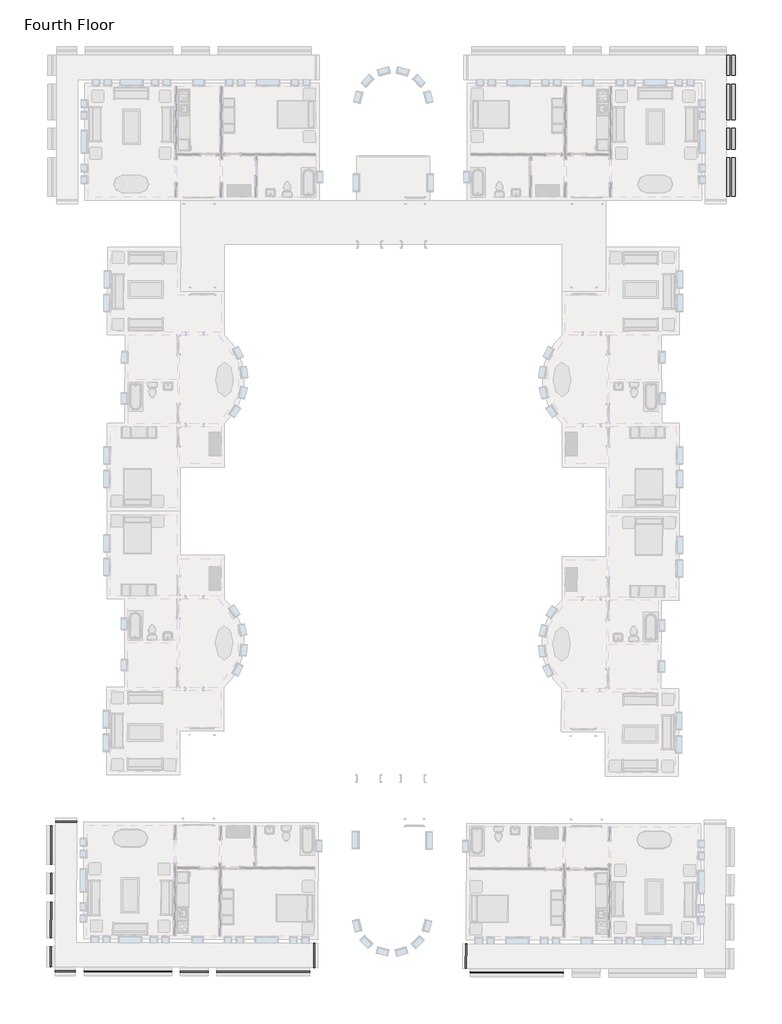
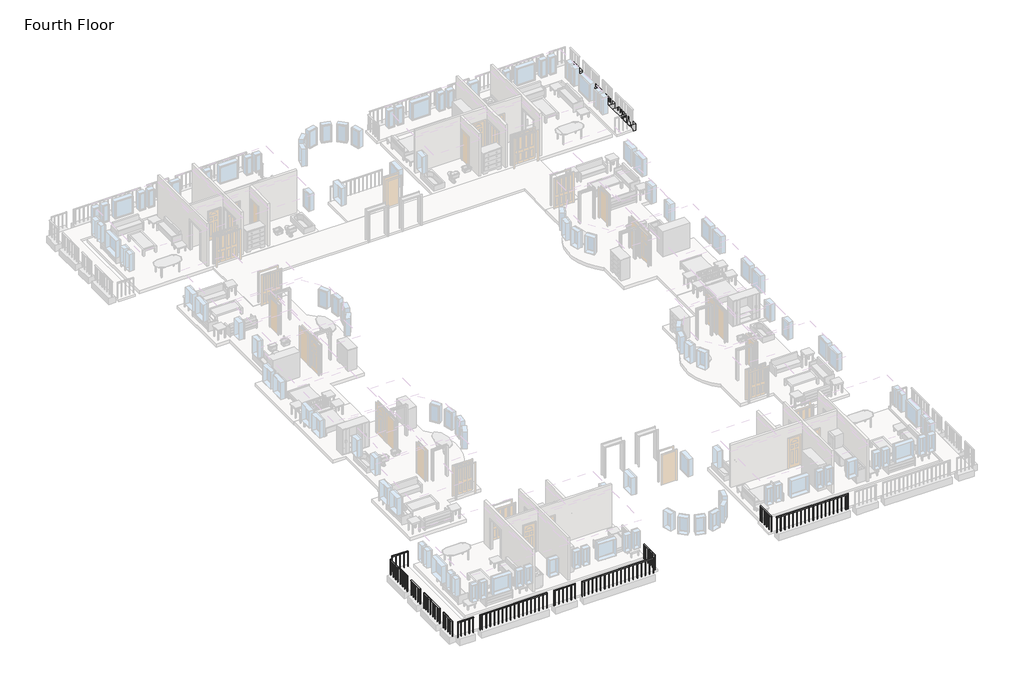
# One storey, part 4 of 8: 12 railings, 1 beam.
"""IFC4 building model written with IfcOpenShell, lengths in millimetres."""

from ifc_helpers import new_model, si_unit, frame, origin, place, context, project, spatial, polyline, outline, extrude, element, save

model = new_model("IFC4")

# Units and contexts
model_context = context("Model", 3, world=origin())
ifc_project = project(units=[si_unit("LENGTHUNIT", "METRE", prefix="MILLI")], contexts=[model_context])

# Site, building, storey
site = spatial("IfcSite", under=ifc_project)
building = spatial("IfcBuilding", under=site)
storey = spatial("IfcBuildingStorey", under=building, Name="Fourth Floor", Elevation=9144.0)

# Beam
placement = place(None, origin())
element("IfcBeam", 1, ObjectType="M_Concrete-Rectangular Beam : 450 x 450", at=placement, inside=storey, context=model_context, shape_type="SweptSolid", body=[
    extrude(outline(polyline([(-1643.3416203, 4031.1188386), (-1193.3416203, 4031.1188386), (-1193.3416203, 2981.1188386), (-1643.3416203, 2981.1188386), (-1643.3416203, 4031.1188386)])), frame((0.0, 0.0, 8694.0), z_axis=(0.0, 0.0, 1.0), x_axis=(1.0, 0.0, 0.0)), (0.0, 0.0, 1.0), 450.0),
    extrude(outline(polyline([(-1193.3416203, -3289.8811614), (-1643.3416203, -3289.8811614), (-1643.3416203, -1295.3811614), (-1193.3416203, -1295.3811614), (-1193.3416203, -3289.8811614)])), frame((0.0, 0.0, 8694.0), z_axis=(0.0, 0.0, 1.0), x_axis=(1.0, 0.0, 0.0)), (0.0, 0.0, 1.0), 450.0),
    extrude(outline(polyline([(-1643.3416203, 2531.1188386), (-1193.3416203, 2531.1188386), (-1193.3416203, 681.1188386), (-1643.3416203, 681.1188386), (-1643.3416203, 2531.1188386)])), frame((0.0, 0.0, 8694.0), z_axis=(0.0, 0.0, 1.0), x_axis=(1.0, 0.0, 0.0)), (0.0, 0.0, 1.0), 450.0),
    extrude(outline(polyline([(-1643.3416203, 231.1188386), (-1193.3416203, 231.1188386), (-1193.3416203, -845.3811614), (-1643.3416203, -845.3811614), (-1643.3416203, 231.1188386)])), frame((0.0, 0.0, 8694.0), z_axis=(0.0, 0.0, 1.0), x_axis=(1.0, 0.0, 0.0)), (0.0, 0.0, 1.0), 450.0),
])

# Railings
element("IfcRailing", 2, ObjectType="1100mm", at=placement, inside=storey, context=model_context, shape_type="SweptSolid", body=[
    extrude(outline(polyline([(-14954.7371889, -43662.8708828), (-14954.5924462, -43612.8710923), (-10112.6127346, -43626.8879749), (-10112.7574773, -43676.8877654), (-14954.7371889, -43662.8708828)])), frame((0.0, 0.0, 10194.0), z_axis=(0.0, 0.0, 1.0), x_axis=(1.0, 0.0, 0.0)), (0.0, 0.0, 1.0), 50.0),
    extrude(outline(polyline([(-10292.1481682, -43638.8682963), (-10267.1482729, -43638.9406676), (-10267.2206443, -43663.9405629), (-10292.2205395, -43663.8681915), (-10292.1481682, -43638.8682963)])), frame((0.0, 0.0, 9144.0), z_axis=(0.0, 0.0, 1.0), x_axis=(1.0, 0.0, 0.0)), (0.0, 0.0, 1.0), 1050.0),
    extrude(outline(polyline([(-10567.1470159, -43638.0722115), (-10542.1471207, -43638.1445828), (-10542.219492, -43663.144478), (-10567.2193872, -43663.0721067), (-10567.1470159, -43638.0722115)])), frame((0.0, 0.0, 9144.0), z_axis=(0.0, 0.0, 1.0), x_axis=(1.0, 0.0, 0.0)), (0.0, 0.0, 1.0), 1050.0),
    extrude(outline(polyline([(-10842.1458636, -43637.2761266), (-10817.1459684, -43637.348498), (-10817.2183397, -43662.3483932), (-10842.218235, -43662.2760219), (-10842.1458636, -43637.2761266)])), frame((0.0, 0.0, 9144.0), z_axis=(0.0, 0.0, 1.0), x_axis=(1.0, 0.0, 0.0)), (0.0, 0.0, 1.0), 1050.0),
    extrude(outline(polyline([(-11117.1447113, -43636.4800418), (-11092.1448161, -43636.5524131), (-11092.2171874, -43661.5523084), (-11117.2170827, -43661.479937), (-11117.1447113, -43636.4800418)])), frame((0.0, 0.0, 9144.0), z_axis=(0.0, 0.0, 1.0), x_axis=(1.0, 0.0, 0.0)), (0.0, 0.0, 1.0), 1050.0),
    extrude(outline(polyline([(-11392.1435591, -43635.683957), (-11367.1436638, -43635.7563283), (-11367.2160352, -43660.7562236), (-11392.2159304, -43660.6838522), (-11392.1435591, -43635.683957)])), frame((0.0, 0.0, 9144.0), z_axis=(0.0, 0.0, 1.0), x_axis=(1.0, 0.0, 0.0)), (0.0, 0.0, 1.0), 1050.0),
    extrude(outline(polyline([(-11667.1424068, -43634.8878721), (-11642.1425115, -43634.9602435), (-11642.2148829, -43659.9601387), (-11667.2147781, -43659.8877674), (-11667.1424068, -43634.8878721)])), frame((0.0, 0.0, 9144.0), z_axis=(0.0, 0.0, 1.0), x_axis=(1.0, 0.0, 0.0)), (0.0, 0.0, 1.0), 1050.0),
    extrude(outline(polyline([(-11942.1412545, -43634.0917873), (-11917.1413593, -43634.1641587), (-11917.2137306, -43659.1640539), (-11942.2136259, -43659.0916826), (-11942.1412545, -43634.0917873)])), frame((0.0, 0.0, 9144.0), z_axis=(0.0, 0.0, 1.0), x_axis=(1.0, 0.0, 0.0)), (0.0, 0.0, 1.0), 1050.0),
    extrude(outline(polyline([(-12217.1401022, -43633.2957025), (-12192.140207, -43633.3680738), (-12192.2125783, -43658.3679691), (-12217.2124736, -43658.2955977), (-12217.1401022, -43633.2957025)])), frame((0.0, 0.0, 9144.0), z_axis=(0.0, 0.0, 1.0), x_axis=(1.0, 0.0, 0.0)), (0.0, 0.0, 1.0), 1050.0),
    extrude(outline(polyline([(-12492.13895, -43632.4996177), (-12467.1390547, -43632.571989), (-12467.2114261, -43657.5718843), (-12492.2113213, -43657.4995129), (-12492.13895, -43632.4996177)])), frame((0.0, 0.0, 9144.0), z_axis=(0.0, 0.0, 1.0), x_axis=(1.0, 0.0, 0.0)), (0.0, 0.0, 1.0), 1050.0),
    extrude(outline(polyline([(-12767.1377977, -43631.7035328), (-12742.1379024, -43631.7759042), (-12742.2102738, -43656.7757994), (-12767.210169, -43656.7034281), (-12767.1377977, -43631.7035328)])), frame((0.0, 0.0, 9144.0), z_axis=(0.0, 0.0, 1.0), x_axis=(1.0, 0.0, 0.0)), (0.0, 0.0, 1.0), 1050.0),
    extrude(outline(polyline([(-13042.1366454, -43630.907448), (-13017.1367502, -43630.9798194), (-13017.2091215, -43655.9797146), (-13042.2090168, -43655.9073433), (-13042.1366454, -43630.907448)])), frame((0.0, 0.0, 9144.0), z_axis=(0.0, 0.0, 1.0), x_axis=(1.0, 0.0, 0.0)), (0.0, 0.0, 1.0), 1050.0),
    extrude(outline(polyline([(-13317.1354931, -43630.1113632), (-13292.1355979, -43630.1837345), (-13292.2079692, -43655.1836298), (-13317.2078645, -43655.1112584), (-13317.1354931, -43630.1113632)])), frame((0.0, 0.0, 9144.0), z_axis=(0.0, 0.0, 1.0), x_axis=(1.0, 0.0, 0.0)), (0.0, 0.0, 1.0), 1050.0),
    extrude(outline(polyline([(-13592.1343409, -43629.3152784), (-13567.1344456, -43629.3876497), (-13567.206817, -43654.387545), (-13592.2067122, -43654.3151736), (-13592.1343409, -43629.3152784)])), frame((0.0, 0.0, 9144.0), z_axis=(0.0, 0.0, 1.0), x_axis=(1.0, 0.0, 0.0)), (0.0, 0.0, 1.0), 1050.0),
    extrude(outline(polyline([(-13867.1331886, -43628.5191935), (-13842.1332933, -43628.5915649), (-13842.2056647, -43653.5914601), (-13867.2055599, -43653.5190888), (-13867.1331886, -43628.5191935)])), frame((0.0, 0.0, 9144.0), z_axis=(0.0, 0.0, 1.0), x_axis=(1.0, 0.0, 0.0)), (0.0, 0.0, 1.0), 1050.0),
    extrude(outline(polyline([(-14142.1320363, -43627.7231087), (-14117.1321411, -43627.7954801), (-14117.2045124, -43652.7953753), (-14142.2044076, -43652.723004), (-14142.1320363, -43627.7231087)])), frame((0.0, 0.0, 9144.0), z_axis=(0.0, 0.0, 1.0), x_axis=(1.0, 0.0, 0.0)), (0.0, 0.0, 1.0), 1050.0),
    extrude(outline(polyline([(-14417.130884, -43626.9270239), (-14392.1309888, -43626.9993952), (-14392.2033601, -43651.9992905), (-14417.2032554, -43651.9269191), (-14417.130884, -43626.9270239)])), frame((0.0, 0.0, 9144.0), z_axis=(0.0, 0.0, 1.0), x_axis=(1.0, 0.0, 0.0)), (0.0, 0.0, 1.0), 1050.0),
    extrude(outline(polyline([(-14692.1297317, -43626.1309391), (-14667.1298365, -43626.2033104), (-14667.2022078, -43651.2032057), (-14692.2021031, -43651.1308343), (-14692.1297317, -43626.1309391)])), frame((0.0, 0.0, 9144.0), z_axis=(0.0, 0.0, 1.0), x_axis=(1.0, 0.0, 0.0)), (0.0, 0.0, 1.0), 1050.0),
    extrude(outline(polyline([(-10137.6488155, -43639.3155512), (-10112.6489203, -43639.3879226), (-10112.7212916, -43664.3878178), (-10137.7211869, -43664.3154465), (-10137.6488155, -43639.3155512)])), frame((0.0, 0.0, 9144.0), z_axis=(0.0, 0.0, 1.0), x_axis=(1.0, 0.0, 0.0)), (0.0, 0.0, 1.0), 1050.0),
    extrude(outline(polyline([(-14954.6286318, -43625.3710399), (-14929.6287366, -43625.4434113), (-14929.7011079, -43650.4433065), (-14954.7010032, -43650.3709351), (-14954.6286318, -43625.3710399)])), frame((0.0, 0.0, 9144.0), z_axis=(0.0, 0.0, 1.0), x_axis=(1.0, 0.0, 0.0)), (0.0, 0.0, 1.0), 1050.0),
])
element("IfcRailing", 3, ObjectType="1100mm", at=placement, inside=storey, context=model_context, shape_type="SweptSolid", body=[
    extrude(outline(polyline([(-15154.0126374, -43412.2929595), (-15204.0124279, -43412.1482168), (-15200.3214891, -42137.1535592), (-15150.3216986, -42137.2983019), (-15154.0126374, -43412.2929595)])), frame((0.0, 0.0, 10194.0), z_axis=(0.0, 0.0, 1.0), x_axis=(1.0, 0.0, 0.0)), (0.0, 0.0, 1.0), 50.0),
    extrude(outline(polyline([(-15188.3643266, -42324.6889592), (-15188.2919553, -42299.689064), (-15163.29206, -42299.7614353), (-15163.3644314, -42324.7613306), (-15188.3643266, -42324.6889592)])), frame((0.0, 0.0, 9144.0), z_axis=(0.0, 0.0, 1.0), x_axis=(1.0, 0.0, 0.0)), (0.0, 0.0, 1.0), 1050.0),
    extrude(outline(polyline([(-15189.1604114, -42599.6878069), (-15189.0880401, -42574.6879117), (-15164.0881448, -42574.760283), (-15164.1605162, -42599.7601783), (-15189.1604114, -42599.6878069)])), frame((0.0, 0.0, 9144.0), z_axis=(0.0, 0.0, 1.0), x_axis=(1.0, 0.0, 0.0)), (0.0, 0.0, 1.0), 1050.0),
    extrude(outline(polyline([(-15189.9564963, -42874.6866547), (-15189.8841249, -42849.6867594), (-15164.8842297, -42849.7591308), (-15164.956601, -42874.759026), (-15189.9564963, -42874.6866547)])), frame((0.0, 0.0, 9144.0), z_axis=(0.0, 0.0, 1.0), x_axis=(1.0, 0.0, 0.0)), (0.0, 0.0, 1.0), 1050.0),
    extrude(outline(polyline([(-15190.7525811, -43149.6855024), (-15190.6802097, -43124.6856071), (-15165.6803145, -43124.7579785), (-15165.7526858, -43149.7578737), (-15190.7525811, -43149.6855024)])), frame((0.0, 0.0, 9144.0), z_axis=(0.0, 0.0, 1.0), x_axis=(1.0, 0.0, 0.0)), (0.0, 0.0, 1.0), 1050.0),
    extrude(outline(polyline([(-15187.8939128, -42162.1896401), (-15187.8215415, -42137.1897449), (-15162.8216462, -42137.2621162), (-15162.8940176, -42162.2620115), (-15187.8939128, -42162.1896401)])), frame((0.0, 0.0, 9144.0), z_axis=(0.0, 0.0, 1.0), x_axis=(1.0, 0.0, 0.0)), (0.0, 0.0, 1.0), 1050.0),
    extrude(outline(polyline([(-15191.5124802, -43412.1844025), (-15191.4401089, -43387.1845072), (-15166.4402136, -43387.2568786), (-15166.512585, -43412.2567738), (-15191.5124802, -43412.1844025)])), frame((0.0, 0.0, 9144.0), z_axis=(0.0, 0.0, 1.0), x_axis=(1.0, 0.0, 0.0)), (0.0, 0.0, 1.0), 1050.0),
])
element("IfcRailing", 4, ObjectType="1100mm", at=placement, inside=storey, context=model_context, shape_type="SweptSolid", body=[
    extrude(outline(polyline([(-23286.0575364, -43588.7526169), (-23286.2022791, -43638.7524074), (-28128.1819906, -43624.7355247), (-28128.0372479, -43574.7357342), (-23286.0575364, -43588.7526169)])), frame((0.0, 0.0, 10194.0), z_axis=(0.0, 0.0, 1.0), x_axis=(1.0, 0.0, 0.0)), (0.0, 0.0, 1.0), 50.0),
    extrude(outline(polyline([(-27948.5741857, -43587.7553081), (-27948.6465571, -43612.7552034), (-27973.6464523, -43612.682832), (-27973.574081, -43587.6829368), (-27948.5741857, -43587.7553081)])), frame((0.0, 0.0, 9144.0), z_axis=(0.0, 0.0, 1.0), x_axis=(1.0, 0.0, 0.0)), (0.0, 0.0, 1.0), 1050.0),
    extrude(outline(polyline([(-27673.575338, -43588.551393), (-27673.6477093, -43613.5512882), (-27698.6476046, -43613.4789169), (-27698.5752332, -43588.4790216), (-27673.575338, -43588.551393)])), frame((0.0, 0.0, 9144.0), z_axis=(0.0, 0.0, 1.0), x_axis=(1.0, 0.0, 0.0)), (0.0, 0.0, 1.0), 1050.0),
    extrude(outline(polyline([(-27398.5764903, -43589.3474778), (-27398.6488616, -43614.347373), (-27423.6487569, -43614.2750017), (-27423.5763855, -43589.2751064), (-27398.5764903, -43589.3474778)])), frame((0.0, 0.0, 9144.0), z_axis=(0.0, 0.0, 1.0), x_axis=(1.0, 0.0, 0.0)), (0.0, 0.0, 1.0), 1050.0),
    extrude(outline(polyline([(-27123.5776425, -43590.1435626), (-27123.6500139, -43615.1434579), (-27148.6499091, -43615.0710865), (-27148.5775378, -43590.0711913), (-27123.5776425, -43590.1435626)])), frame((0.0, 0.0, 9144.0), z_axis=(0.0, 0.0, 1.0), x_axis=(1.0, 0.0, 0.0)), (0.0, 0.0, 1.0), 1050.0),
    extrude(outline(polyline([(-26848.5787948, -43590.9396474), (-26848.6511662, -43615.9395427), (-26873.6510614, -43615.8671713), (-26873.5786901, -43590.8672761), (-26848.5787948, -43590.9396474)])), frame((0.0, 0.0, 9144.0), z_axis=(0.0, 0.0, 1.0), x_axis=(1.0, 0.0, 0.0)), (0.0, 0.0, 1.0), 1050.0),
    extrude(outline(polyline([(-26573.5799471, -43591.7357323), (-26573.6523184, -43616.7356275), (-26598.6522137, -43616.6632562), (-26598.5798423, -43591.6633609), (-26573.5799471, -43591.7357323)])), frame((0.0, 0.0, 9144.0), z_axis=(0.0, 0.0, 1.0), x_axis=(1.0, 0.0, 0.0)), (0.0, 0.0, 1.0), 1050.0),
    extrude(outline(polyline([(-26298.5810994, -43592.5318171), (-26298.6534707, -43617.5317123), (-26323.653366, -43617.459341), (-26323.5809946, -43592.4594458), (-26298.5810994, -43592.5318171)])), frame((0.0, 0.0, 9144.0), z_axis=(0.0, 0.0, 1.0), x_axis=(1.0, 0.0, 0.0)), (0.0, 0.0, 1.0), 1050.0),
    extrude(outline(polyline([(-26023.5822516, -43593.3279019), (-26023.654623, -43618.3277972), (-26048.6545182, -43618.2554258), (-26048.5821469, -43593.2555306), (-26023.5822516, -43593.3279019)])), frame((0.0, 0.0, 9144.0), z_axis=(0.0, 0.0, 1.0), x_axis=(1.0, 0.0, 0.0)), (0.0, 0.0, 1.0), 1050.0),
    extrude(outline(polyline([(-25748.5834039, -43594.1239868), (-25748.6557753, -43619.123882), (-25773.6556705, -43619.0515107), (-25773.5832992, -43594.0516154), (-25748.5834039, -43594.1239868)])), frame((0.0, 0.0, 9144.0), z_axis=(0.0, 0.0, 1.0), x_axis=(1.0, 0.0, 0.0)), (0.0, 0.0, 1.0), 1050.0),
    extrude(outline(polyline([(-25473.5845562, -43594.9200716), (-25473.6569275, -43619.9199668), (-25498.6568228, -43619.8475955), (-25498.5844514, -43594.8477002), (-25473.5845562, -43594.9200716)])), frame((0.0, 0.0, 9144.0), z_axis=(0.0, 0.0, 1.0), x_axis=(1.0, 0.0, 0.0)), (0.0, 0.0, 1.0), 1050.0),
    extrude(outline(polyline([(-25198.5857085, -43595.7161564), (-25198.6580798, -43620.7160517), (-25223.6579751, -43620.6436803), (-25223.5856037, -43595.6437851), (-25198.5857085, -43595.7161564)])), frame((0.0, 0.0, 9144.0), z_axis=(0.0, 0.0, 1.0), x_axis=(1.0, 0.0, 0.0)), (0.0, 0.0, 1.0), 1050.0),
    extrude(outline(polyline([(-24923.5868608, -43596.5122412), (-24923.6592321, -43621.5121365), (-24948.6591273, -43621.4397651), (-24948.586756, -43596.4398699), (-24923.5868608, -43596.5122412)])), frame((0.0, 0.0, 9144.0), z_axis=(0.0, 0.0, 1.0), x_axis=(1.0, 0.0, 0.0)), (0.0, 0.0, 1.0), 1050.0),
    extrude(outline(polyline([(-24648.588013, -43597.3083261), (-24648.6603844, -43622.3082213), (-24673.6602796, -43622.23585), (-24673.5879083, -43597.2359547), (-24648.588013, -43597.3083261)])), frame((0.0, 0.0, 9144.0), z_axis=(0.0, 0.0, 1.0), x_axis=(1.0, 0.0, 0.0)), (0.0, 0.0, 1.0), 1050.0),
    extrude(outline(polyline([(-24373.5891653, -43598.1044109), (-24373.6615367, -43623.1043061), (-24398.6614319, -43623.0319348), (-24398.5890606, -43598.0320395), (-24373.5891653, -43598.1044109)])), frame((0.0, 0.0, 9144.0), z_axis=(0.0, 0.0, 1.0), x_axis=(1.0, 0.0, 0.0)), (0.0, 0.0, 1.0), 1050.0),
    extrude(outline(polyline([(-24098.5903176, -43598.9004957), (-24098.6626889, -43623.900391), (-24123.6625842, -43623.8280196), (-24123.5902128, -43598.8281244), (-24098.5903176, -43598.9004957)])), frame((0.0, 0.0, 9144.0), z_axis=(0.0, 0.0, 1.0), x_axis=(1.0, 0.0, 0.0)), (0.0, 0.0, 1.0), 1050.0),
    extrude(outline(polyline([(-23823.5914699, -43599.6965805), (-23823.6638412, -43624.6964758), (-23848.6637365, -43624.6241044), (-23848.5913651, -43599.6242092), (-23823.5914699, -43599.6965805)])), frame((0.0, 0.0, 9144.0), z_axis=(0.0, 0.0, 1.0), x_axis=(1.0, 0.0, 0.0)), (0.0, 0.0, 1.0), 1050.0),
    extrude(outline(polyline([(-23548.5926221, -43600.4926654), (-23548.6649935, -43625.4925606), (-23573.6648887, -43625.4201893), (-23573.5925174, -43600.420294), (-23548.5926221, -43600.4926654)])), frame((0.0, 0.0, 9144.0), z_axis=(0.0, 0.0, 1.0), x_axis=(1.0, 0.0, 0.0)), (0.0, 0.0, 1.0), 1050.0),
    extrude(outline(polyline([(-28103.0735383, -43587.3080532), (-28103.1459097, -43612.3079485), (-28128.1458049, -43612.2355771), (-28128.0734336, -43587.2356819), (-28103.0735383, -43587.3080532)])), frame((0.0, 0.0, 9144.0), z_axis=(0.0, 0.0, 1.0), x_axis=(1.0, 0.0, 0.0)), (0.0, 0.0, 1.0), 1050.0),
    extrude(outline(polyline([(-23286.093722, -43601.2525645), (-23286.1660934, -43626.2524598), (-23311.1659886, -43626.1800884), (-23311.0936173, -43601.1801932), (-23286.093722, -43601.2525645)])), frame((0.0, 0.0, 9144.0), z_axis=(0.0, 0.0, 1.0), x_axis=(1.0, 0.0, 0.0)), (0.0, 0.0, 1.0), 1050.0),
])
element("IfcRailing", 5, ObjectType="1100mm", at=placement, inside=storey, context=model_context, shape_type="SweptSolid", body=[
    extrude(outline(polyline([(-28578.0353624, -43573.43305), (-28578.1801051, -43623.4328405), (-30028.1740294, -43619.2353023), (-30028.0292867, -43569.2355118), (-28578.0353624, -43573.43305)])), frame((0.0, 0.0, 10194.0), z_axis=(0.0, 0.0, 1.0), x_axis=(1.0, 0.0, 0.0)), (0.0, 0.0, 1.0), 50.0),
    extrude(outline(polyline([(-29940.565839, -43581.9887591), (-29940.6382104, -43606.9886544), (-29965.6381056, -43606.916283), (-29965.5657343, -43581.9163878), (-29940.565839, -43581.9887591)])), frame((0.0, 0.0, 9144.0), z_axis=(0.0, 0.0, 1.0), x_axis=(1.0, 0.0, 0.0)), (0.0, 0.0, 1.0), 1050.0),
    extrude(outline(polyline([(-29665.5669913, -43582.784844), (-29665.6393627, -43607.7847392), (-29690.6392579, -43607.7123679), (-29690.5668866, -43582.7124726), (-29665.5669913, -43582.784844)])), frame((0.0, 0.0, 9144.0), z_axis=(0.0, 0.0, 1.0), x_axis=(1.0, 0.0, 0.0)), (0.0, 0.0, 1.0), 1050.0),
    extrude(outline(polyline([(-29390.5681436, -43583.5809288), (-29390.6405149, -43608.580824), (-29415.6404102, -43608.5084527), (-29415.5680388, -43583.5085574), (-29390.5681436, -43583.5809288)])), frame((0.0, 0.0, 9144.0), z_axis=(0.0, 0.0, 1.0), x_axis=(1.0, 0.0, 0.0)), (0.0, 0.0, 1.0), 1050.0),
    extrude(outline(polyline([(-29115.5692959, -43584.3770136), (-29115.6416672, -43609.3769089), (-29140.6415625, -43609.3045375), (-29140.5691911, -43584.3046423), (-29115.5692959, -43584.3770136)])), frame((0.0, 0.0, 9144.0), z_axis=(0.0, 0.0, 1.0), x_axis=(1.0, 0.0, 0.0)), (0.0, 0.0, 1.0), 1050.0),
    extrude(outline(polyline([(-28840.5704481, -43585.1730985), (-28840.6428195, -43610.1729937), (-28865.6427147, -43610.1006223), (-28865.5703434, -43585.1007271), (-28840.5704481, -43585.1730985)])), frame((0.0, 0.0, 9144.0), z_axis=(0.0, 0.0, 1.0), x_axis=(1.0, 0.0, 0.0)), (0.0, 0.0, 1.0), 1050.0),
    extrude(outline(polyline([(-30003.0655771, -43581.8078308), (-30003.1379485, -43606.807726), (-30028.1378437, -43606.7353547), (-30028.0654724, -43581.7354594), (-30003.0655771, -43581.8078308)])), frame((0.0, 0.0, 9144.0), z_axis=(0.0, 0.0, 1.0), x_axis=(1.0, 0.0, 0.0)), (0.0, 0.0, 1.0), 1050.0),
    extrude(outline(polyline([(-28578.071548, -43585.9329976), (-28578.1439194, -43610.9328929), (-28603.1438146, -43610.8605215), (-28603.0714433, -43585.8606263), (-28578.071548, -43585.9329976)])), frame((0.0, 0.0, 9144.0), z_axis=(0.0, 0.0, 1.0), x_axis=(1.0, 0.0, 0.0)), (0.0, 0.0, 1.0), 1050.0),
])
element("IfcRailing", 6, ObjectType="1100mm", at=placement, inside=storey, context=model_context, shape_type="SweptSolid", body=[
    extrude(outline(polyline([(-30478.0274012, -43567.9328275), (-30478.1721439, -43617.932618), (-35028.1530789, -43604.7610327), (-35028.0083362, -43554.7612422), (-30478.0274012, -43567.9328275)])), frame((0.0, 0.0, 10194.0), z_axis=(0.0, 0.0, 1.0), x_axis=(1.0, 0.0, 0.0)), (0.0, 0.0, 1.0), 50.0),
    extrude(outline(polyline([(-34865.5452028, -43567.7316036), (-34865.6175741, -43592.7314989), (-34890.6174694, -43592.6591275), (-34890.545098, -43567.6592323), (-34865.5452028, -43567.7316036)])), frame((0.0, 0.0, 9144.0), z_axis=(0.0, 0.0, 1.0), x_axis=(1.0, 0.0, 0.0)), (0.0, 0.0, 1.0), 1050.0),
    extrude(outline(polyline([(-34590.5463551, -43568.5276884), (-34590.6187264, -43593.5275837), (-34615.6186217, -43593.4552123), (-34615.5462503, -43568.4553171), (-34590.5463551, -43568.5276884)])), frame((0.0, 0.0, 9144.0), z_axis=(0.0, 0.0, 1.0), x_axis=(1.0, 0.0, 0.0)), (0.0, 0.0, 1.0), 1050.0),
    extrude(outline(polyline([(-34315.5475073, -43569.3237733), (-34315.6198787, -43594.3236685), (-34340.6197739, -43594.2512972), (-34340.5474026, -43569.2514019), (-34315.5475073, -43569.3237733)])), frame((0.0, 0.0, 9144.0), z_axis=(0.0, 0.0, 1.0), x_axis=(1.0, 0.0, 0.0)), (0.0, 0.0, 1.0), 1050.0),
    extrude(outline(polyline([(-34040.5486596, -43570.1198581), (-34040.621031, -43595.1197533), (-34065.6209262, -43595.047382), (-34065.5485549, -43570.0474867), (-34040.5486596, -43570.1198581)])), frame((0.0, 0.0, 9144.0), z_axis=(0.0, 0.0, 1.0), x_axis=(1.0, 0.0, 0.0)), (0.0, 0.0, 1.0), 1050.0),
    extrude(outline(polyline([(-33765.5498119, -43570.9159429), (-33765.6221833, -43595.9158382), (-33790.6220785, -43595.8434668), (-33790.5497072, -43570.8435716), (-33765.5498119, -43570.9159429)])), frame((0.0, 0.0, 9144.0), z_axis=(0.0, 0.0, 1.0), x_axis=(1.0, 0.0, 0.0)), (0.0, 0.0, 1.0), 1050.0),
    extrude(outline(polyline([(-33490.5509642, -43571.7120277), (-33490.6233355, -43596.711923), (-33515.6232308, -43596.6395516), (-33515.5508594, -43571.6396564), (-33490.5509642, -43571.7120277)])), frame((0.0, 0.0, 9144.0), z_axis=(0.0, 0.0, 1.0), x_axis=(1.0, 0.0, 0.0)), (0.0, 0.0, 1.0), 1050.0),
    extrude(outline(polyline([(-33215.5521165, -43572.5081126), (-33215.6244878, -43597.5080078), (-33240.6243831, -43597.4356365), (-33240.5520117, -43572.4357412), (-33215.5521165, -43572.5081126)])), frame((0.0, 0.0, 9144.0), z_axis=(0.0, 0.0, 1.0), x_axis=(1.0, 0.0, 0.0)), (0.0, 0.0, 1.0), 1050.0),
    extrude(outline(polyline([(-32940.5532687, -43573.3041974), (-32940.6256401, -43598.3040926), (-32965.6255353, -43598.2317213), (-32965.553164, -43573.2318261), (-32940.5532687, -43573.3041974)])), frame((0.0, 0.0, 9144.0), z_axis=(0.0, 0.0, 1.0), x_axis=(1.0, 0.0, 0.0)), (0.0, 0.0, 1.0), 1050.0),
    extrude(outline(polyline([(-32665.554421, -43574.1002822), (-32665.6267924, -43599.1001775), (-32690.6266876, -43599.0278061), (-32690.5543163, -43574.0279109), (-32665.554421, -43574.1002822)])), frame((0.0, 0.0, 9144.0), z_axis=(0.0, 0.0, 1.0), x_axis=(1.0, 0.0, 0.0)), (0.0, 0.0, 1.0), 1050.0),
    extrude(outline(polyline([(-32390.5555733, -43574.8963671), (-32390.6279446, -43599.8962623), (-32415.6278399, -43599.823891), (-32415.5554685, -43574.8239957), (-32390.5555733, -43574.8963671)])), frame((0.0, 0.0, 9144.0), z_axis=(0.0, 0.0, 1.0), x_axis=(1.0, 0.0, 0.0)), (0.0, 0.0, 1.0), 1050.0),
    extrude(outline(polyline([(-32115.5567256, -43575.6924519), (-32115.6290969, -43600.6923471), (-32140.6289922, -43600.6199758), (-32140.5566208, -43575.6200805), (-32115.5567256, -43575.6924519)])), frame((0.0, 0.0, 9144.0), z_axis=(0.0, 0.0, 1.0), x_axis=(1.0, 0.0, 0.0)), (0.0, 0.0, 1.0), 1050.0),
    extrude(outline(polyline([(-31840.5578778, -43576.4885367), (-31840.6302492, -43601.488432), (-31865.6301444, -43601.4160606), (-31865.5577731, -43576.4161654), (-31840.5578778, -43576.4885367)])), frame((0.0, 0.0, 9144.0), z_axis=(0.0, 0.0, 1.0), x_axis=(1.0, 0.0, 0.0)), (0.0, 0.0, 1.0), 1050.0),
    extrude(outline(polyline([(-31565.5590301, -43577.2846215), (-31565.6314015, -43602.2845168), (-31590.6312967, -43602.2121454), (-31590.5589254, -43577.2122502), (-31565.5590301, -43577.2846215)])), frame((0.0, 0.0, 9144.0), z_axis=(0.0, 0.0, 1.0), x_axis=(1.0, 0.0, 0.0)), (0.0, 0.0, 1.0), 1050.0),
    extrude(outline(polyline([(-31290.5601824, -43578.0807064), (-31290.6325537, -43603.0806016), (-31315.632449, -43603.0082303), (-31315.5600776, -43578.008335), (-31290.5601824, -43578.0807064)])), frame((0.0, 0.0, 9144.0), z_axis=(0.0, 0.0, 1.0), x_axis=(1.0, 0.0, 0.0)), (0.0, 0.0, 1.0), 1050.0),
    extrude(outline(polyline([(-31015.5613347, -43578.8767912), (-31015.633706, -43603.8766864), (-31040.6336013, -43603.8043151), (-31040.5612299, -43578.8044198), (-31015.5613347, -43578.8767912)])), frame((0.0, 0.0, 9144.0), z_axis=(0.0, 0.0, 1.0), x_axis=(1.0, 0.0, 0.0)), (0.0, 0.0, 1.0), 1050.0),
    extrude(outline(polyline([(-30740.562487, -43579.672876), (-30740.6348583, -43604.6727713), (-30765.6347535, -43604.6003999), (-30765.5623822, -43579.6005047), (-30740.562487, -43579.672876)])), frame((0.0, 0.0, 9144.0), z_axis=(0.0, 0.0, 1.0), x_axis=(1.0, 0.0, 0.0)), (0.0, 0.0, 1.0), 1050.0),
    extrude(outline(polyline([(-35003.0446267, -43567.3335612), (-35003.116998, -43592.3334565), (-35028.1168933, -43592.2610851), (-35028.0445219, -43567.2611899), (-35003.0446267, -43567.3335612)])), frame((0.0, 0.0, 9144.0), z_axis=(0.0, 0.0, 1.0), x_axis=(1.0, 0.0, 0.0)), (0.0, 0.0, 1.0), 1050.0),
    extrude(outline(polyline([(-30478.0635869, -43580.4327752), (-30478.1359582, -43605.4326704), (-30503.1358534, -43605.3602991), (-30503.0634821, -43580.3604038), (-30478.0635869, -43580.4327752)])), frame((0.0, 0.0, 9144.0), z_axis=(0.0, 0.0, 1.0), x_axis=(1.0, 0.0, 0.0)), (0.0, 0.0, 1.0), 1050.0),
])
element("IfcRailing", 7, ObjectType="1100mm", at=placement, inside=storey, context=model_context, shape_type="SweptSolid", body=[
    extrude(outline(polyline([(-35478.0064507, -43553.458558), (-35478.1511934, -43603.4583485), (-36528.1467938, -43600.4187519), (-36528.0020511, -43550.4189614), (-35478.0064507, -43553.458558)])), frame((0.0, 0.0, 10194.0), z_axis=(0.0, 0.0, 1.0), x_axis=(1.0, 0.0, 0.0)), (0.0, 0.0, 1.0), 50.0),
    extrude(outline(polyline([(-36290.5392319, -43563.6064368), (-36290.6116033, -43588.606332), (-36315.6114985, -43588.5339607), (-36315.5391272, -43563.5340654), (-36290.5392319, -43563.6064368)])), frame((0.0, 0.0, 9144.0), z_axis=(0.0, 0.0, 1.0), x_axis=(1.0, 0.0, 0.0)), (0.0, 0.0, 1.0), 1050.0),
    extrude(outline(polyline([(-36015.5403842, -43564.4025216), (-36015.6127555, -43589.4024169), (-36040.6126508, -43589.3300455), (-36040.5402794, -43564.3301503), (-36015.5403842, -43564.4025216)])), frame((0.0, 0.0, 9144.0), z_axis=(0.0, 0.0, 1.0), x_axis=(1.0, 0.0, 0.0)), (0.0, 0.0, 1.0), 1050.0),
    extrude(outline(polyline([(-35740.5415365, -43565.1986064), (-35740.6139078, -43590.1985017), (-35765.6138031, -43590.1261303), (-35765.5414317, -43565.1262351), (-35740.5415365, -43565.1986064)])), frame((0.0, 0.0, 9144.0), z_axis=(0.0, 0.0, 1.0), x_axis=(1.0, 0.0, 0.0)), (0.0, 0.0, 1.0), 1050.0),
    extrude(outline(polyline([(-36503.0383415, -43562.9912803), (-36503.1107129, -43587.9911756), (-36528.1106081, -43587.9188042), (-36528.0382368, -43562.918909), (-36503.0383415, -43562.9912803)])), frame((0.0, 0.0, 9144.0), z_axis=(0.0, 0.0, 1.0), x_axis=(1.0, 0.0, 0.0)), (0.0, 0.0, 1.0), 1050.0),
    extrude(outline(polyline([(-35478.0426364, -43565.9585056), (-35478.1150077, -43590.9584008), (-35503.114903, -43590.8860295), (-35503.0425316, -43565.8861342), (-35478.0426364, -43565.9585056)])), frame((0.0, 0.0, 9144.0), z_axis=(0.0, 0.0, 1.0), x_axis=(1.0, 0.0, 0.0)), (0.0, 0.0, 1.0), 1050.0),
])
element("IfcRailing", 8, ObjectType="1100mm", at=placement, inside=storey, context=model_context, shape_type="SweptSolid", body=[
    extrude(outline(polyline([(-36727.4222423, -43349.8408286), (-36777.4220328, -43349.6960859), (-36774.3824362, -42299.7004855), (-36724.3826457, -42299.8452282), (-36727.4222423, -43349.8408286)])), frame((0.0, 0.0, 10194.0), z_axis=(0.0, 0.0, 1.0), x_axis=(1.0, 0.0, 0.0)), (0.0, 0.0, 1.0), 50.0),
    extrude(outline(polyline([(-36737.5701211, -42537.3080474), (-36762.5700163, -42537.235676), (-36762.497645, -42512.2357808), (-36737.4977498, -42512.3081521), (-36737.5701211, -42537.3080474)])), frame((0.0, 0.0, 9144.0), z_axis=(0.0, 0.0, 1.0), x_axis=(1.0, 0.0, 0.0)), (0.0, 0.0, 1.0), 1050.0),
    extrude(outline(polyline([(-36738.3662059, -42812.3068951), (-36763.3661012, -42812.2345238), (-36763.2937298, -42787.2346285), (-36738.2938346, -42787.3069999), (-36738.3662059, -42812.3068951)])), frame((0.0, 0.0, 9144.0), z_axis=(0.0, 0.0, 1.0), x_axis=(1.0, 0.0, 0.0)), (0.0, 0.0, 1.0), 1050.0),
    extrude(outline(polyline([(-36739.1622908, -43087.3057428), (-36764.162186, -43087.2333715), (-36764.0898147, -43062.2334762), (-36739.0899194, -43062.3058476), (-36739.1622908, -43087.3057428)])), frame((0.0, 0.0, 9144.0), z_axis=(0.0, 0.0, 1.0), x_axis=(1.0, 0.0, 0.0)), (0.0, 0.0, 1.0), 1050.0),
    extrude(outline(polyline([(-36736.9549646, -42324.8089378), (-36761.9548599, -42324.7365664), (-36761.8824885, -42299.7366712), (-36736.8825933, -42299.8090425), (-36736.9549646, -42324.8089378)])), frame((0.0, 0.0, 9144.0), z_axis=(0.0, 0.0, 1.0), x_axis=(1.0, 0.0, 0.0)), (0.0, 0.0, 1.0), 1050.0),
    extrude(outline(polyline([(-36739.9221899, -43349.8046429), (-36764.9220852, -43349.7322716), (-36764.8497138, -43324.7323763), (-36739.8498186, -43324.8047477), (-36739.9221899, -43349.8046429)])), frame((0.0, 0.0, 9144.0), z_axis=(0.0, 0.0, 1.0), x_axis=(1.0, 0.0, 0.0)), (0.0, 0.0, 1.0), 1050.0),
])
element("IfcRailing", 9, ObjectType="1100mm", at=placement, inside=storey, context=model_context, shape_type="SweptSolid", body=[
    extrude(outline(polyline([(-36723.0799614, -41849.8471137), (-36773.0797519, -41849.702371), (-36767.7242722, -39999.7101227), (-36717.7244817, -39999.8548654), (-36723.0799614, -41849.8471137)])), frame((0.0, 0.0, 10194.0), z_axis=(0.0, 0.0, 1.0), x_axis=(1.0, 0.0, 0.0)), (0.0, 0.0, 1.0), 50.0),
    extrude(outline(polyline([(-36730.8395857, -40212.3177894), (-36755.839481, -40212.245418), (-36755.7671096, -40187.2455228), (-36730.7672144, -40187.3178941), (-36730.8395857, -40212.3177894)])), frame((0.0, 0.0, 9144.0), z_axis=(0.0, 0.0, 1.0), x_axis=(1.0, 0.0, 0.0)), (0.0, 0.0, 1.0), 1050.0),
    extrude(outline(polyline([(-36731.6356706, -40487.3166371), (-36756.6355658, -40487.2442657), (-36756.5631945, -40462.2443705), (-36731.5632992, -40462.3167418), (-36731.6356706, -40487.3166371)])), frame((0.0, 0.0, 9144.0), z_axis=(0.0, 0.0, 1.0), x_axis=(1.0, 0.0, 0.0)), (0.0, 0.0, 1.0), 1050.0),
    extrude(outline(polyline([(-36732.4317554, -40762.3154848), (-36757.4316506, -40762.2431135), (-36757.3592793, -40737.2432182), (-36732.3593841, -40737.3155896), (-36732.4317554, -40762.3154848)])), frame((0.0, 0.0, 9144.0), z_axis=(0.0, 0.0, 1.0), x_axis=(1.0, 0.0, 0.0)), (0.0, 0.0, 1.0), 1050.0),
    extrude(outline(polyline([(-36733.2278402, -41037.3143325), (-36758.2277355, -41037.2419612), (-36758.1553641, -41012.2420659), (-36733.1554689, -41012.3144373), (-36733.2278402, -41037.3143325)])), frame((0.0, 0.0, 9144.0), z_axis=(0.0, 0.0, 1.0), x_axis=(1.0, 0.0, 0.0)), (0.0, 0.0, 1.0), 1050.0),
    extrude(outline(polyline([(-36734.0239251, -41312.3131802), (-36759.0238203, -41312.2408089), (-36758.951449, -41287.2409137), (-36733.9515537, -41287.313285), (-36734.0239251, -41312.3131802)])), frame((0.0, 0.0, 9144.0), z_axis=(0.0, 0.0, 1.0), x_axis=(1.0, 0.0, 0.0)), (0.0, 0.0, 1.0), 1050.0),
    extrude(outline(polyline([(-36734.8200099, -41587.312028), (-36759.8199051, -41587.2396566), (-36759.7475338, -41562.2397614), (-36734.7476385, -41562.3121327), (-36734.8200099, -41587.312028)])), frame((0.0, 0.0, 9144.0), z_axis=(0.0, 0.0, 1.0), x_axis=(1.0, 0.0, 0.0)), (0.0, 0.0, 1.0), 1050.0),
    extrude(outline(polyline([(-36730.2968006, -40024.818575), (-36755.2966959, -40024.7462037), (-36755.2243245, -39999.7463084), (-36730.2244293, -39999.8186798), (-36730.2968006, -40024.818575)])), frame((0.0, 0.0, 9144.0), z_axis=(0.0, 0.0, 1.0), x_axis=(1.0, 0.0, 0.0)), (0.0, 0.0, 1.0), 1050.0),
    extrude(outline(polyline([(-36735.579909, -41849.8109281), (-36760.5798043, -41849.7385567), (-36760.5074329, -41824.7386615), (-36735.5075377, -41824.8110328), (-36735.579909, -41849.8109281)])), frame((0.0, 0.0, 9144.0), z_axis=(0.0, 0.0, 1.0), x_axis=(1.0, 0.0, 0.0)), (0.0, 0.0, 1.0), 1050.0),
])
element("IfcRailing", 10, ObjectType="1100mm", at=placement, inside=storey, context=model_context, shape_type="SweptSolid", body=[
    extrude(outline(polyline([(-36716.4217974, -39549.856751), (-36766.4215879, -39549.7120083), (-36763.3052777, -38473.2165189), (-36713.3054872, -38473.3612616), (-36716.4217974, -39549.856751)])), frame((0.0, 0.0, 10194.0), z_axis=(0.0, 0.0, 1.0), x_axis=(1.0, 0.0, 0.0)), (0.0, 0.0, 1.0), 50.0),
    extrude(outline(polyline([(-36726.5696762, -38737.3239698), (-36751.5695715, -38737.2515984), (-36751.4972001, -38712.2517032), (-36726.4973049, -38712.3240745), (-36726.5696762, -38737.3239698)])), frame((0.0, 0.0, 9144.0), z_axis=(0.0, 0.0, 1.0), x_axis=(1.0, 0.0, 0.0)), (0.0, 0.0, 1.0), 1050.0),
    extrude(outline(polyline([(-36727.3657611, -39012.3228175), (-36752.3656563, -39012.2504461), (-36752.293285, -38987.2505509), (-36727.2933897, -38987.3229222), (-36727.3657611, -39012.3228175)])), frame((0.0, 0.0, 9144.0), z_axis=(0.0, 0.0, 1.0), x_axis=(1.0, 0.0, 0.0)), (0.0, 0.0, 1.0), 1050.0),
    extrude(outline(polyline([(-36728.1618459, -39287.3216652), (-36753.1617411, -39287.2492939), (-36753.0893698, -39262.2493986), (-36728.0894745, -39262.32177), (-36728.1618459, -39287.3216652)])), frame((0.0, 0.0, 9144.0), z_axis=(0.0, 0.0, 1.0), x_axis=(1.0, 0.0, 0.0)), (0.0, 0.0, 1.0), 1050.0),
    extrude(outline(polyline([(-36725.8778061, -38498.3249712), (-36750.8777014, -38498.2525998), (-36750.80533, -38473.2527046), (-36725.8054348, -38473.3250759), (-36725.8778061, -38498.3249712)])), frame((0.0, 0.0, 9144.0), z_axis=(0.0, 0.0, 1.0), x_axis=(1.0, 0.0, 0.0)), (0.0, 0.0, 1.0), 1050.0),
    extrude(outline(polyline([(-36728.921745, -39549.8205653), (-36753.9216403, -39549.7481939), (-36753.8492689, -39524.7482987), (-36728.8493737, -39524.8206701), (-36728.921745, -39549.8205653)])), frame((0.0, 0.0, 9144.0), z_axis=(0.0, 0.0, 1.0), x_axis=(1.0, 0.0, 0.0)), (0.0, 0.0, 1.0), 1050.0),
])
element("IfcRailing", 11, ObjectType="1100mm", at=placement, inside=storey, context=model_context, shape_type="SweptSolid", body=[
    extrude(outline(polyline([(-36712.0028029, -38023.3631472), (-36762.0025934, -38023.2184045), (-36756.2288073, -36028.7267616), (-36706.2290168, -36028.8715043), (-36712.0028029, -38023.3631472)])), frame((0.0, 0.0, 10194.0), z_axis=(0.0, 0.0, 1.0), x_axis=(1.0, 0.0, 0.0)), (0.0, 0.0, 1.0), 50.0),
    extrude(outline(polyline([(-36718.9663424, -36110.834975), (-36743.9662377, -36110.7626037), (-36743.8938663, -36085.7627085), (-36718.8939711, -36085.8350798), (-36718.9663424, -36110.834975)])), frame((0.0, 0.0, 9144.0), z_axis=(0.0, 0.0, 1.0), x_axis=(1.0, 0.0, 0.0)), (0.0, 0.0, 1.0), 1050.0),
    extrude(outline(polyline([(-36719.7624272, -36385.8338228), (-36744.7623225, -36385.7614514), (-36744.6899511, -36360.7615562), (-36719.6900559, -36360.8339275), (-36719.7624272, -36385.8338228)])), frame((0.0, 0.0, 9144.0), z_axis=(0.0, 0.0, 1.0), x_axis=(1.0, 0.0, 0.0)), (0.0, 0.0, 1.0), 1050.0),
    extrude(outline(polyline([(-36720.5585121, -36660.8326705), (-36745.5584073, -36660.7602991), (-36745.486036, -36635.7604039), (-36720.4861407, -36635.8327752), (-36720.5585121, -36660.8326705)])), frame((0.0, 0.0, 9144.0), z_axis=(0.0, 0.0, 1.0), x_axis=(1.0, 0.0, 0.0)), (0.0, 0.0, 1.0), 1050.0),
    extrude(outline(polyline([(-36721.3545969, -36935.8315182), (-36746.3544921, -36935.7591469), (-36746.2821208, -36910.7592516), (-36721.2822255, -36910.831623), (-36721.3545969, -36935.8315182)])), frame((0.0, 0.0, 9144.0), z_axis=(0.0, 0.0, 1.0), x_axis=(1.0, 0.0, 0.0)), (0.0, 0.0, 1.0), 1050.0),
    extrude(outline(polyline([(-36722.1506817, -37210.8303659), (-36747.150577, -37210.7579946), (-36747.0782056, -37185.7580993), (-36722.0783104, -37185.8304707), (-36722.1506817, -37210.8303659)])), frame((0.0, 0.0, 9144.0), z_axis=(0.0, 0.0, 1.0), x_axis=(1.0, 0.0, 0.0)), (0.0, 0.0, 1.0), 1050.0),
    extrude(outline(polyline([(-36722.9467666, -37485.8292137), (-36747.9466618, -37485.7568423), (-36747.8742905, -37460.7569471), (-36722.8743952, -37460.8293184), (-36722.9467666, -37485.8292137)])), frame((0.0, 0.0, 9144.0), z_axis=(0.0, 0.0, 1.0), x_axis=(1.0, 0.0, 0.0)), (0.0, 0.0, 1.0), 1050.0),
    extrude(outline(polyline([(-36723.7428514, -37760.8280614), (-36748.7427466, -37760.75569), (-36748.6703753, -37735.7557948), (-36723.67048, -37735.8281661), (-36723.7428514, -37760.8280614)])), frame((0.0, 0.0, 9144.0), z_axis=(0.0, 0.0, 1.0), x_axis=(1.0, 0.0, 0.0)), (0.0, 0.0, 1.0), 1050.0),
    extrude(outline(polyline([(-36718.8013357, -36053.8352139), (-36743.801231, -36053.7628425), (-36743.7288596, -36028.7629473), (-36718.7289644, -36028.8353186), (-36718.8013357, -36053.8352139)])), frame((0.0, 0.0, 9144.0), z_axis=(0.0, 0.0, 1.0), x_axis=(1.0, 0.0, 0.0)), (0.0, 0.0, 1.0), 1050.0),
    extrude(outline(polyline([(-36724.5027505, -38023.3269615), (-36749.5026458, -38023.2545901), (-36749.4302744, -37998.2546949), (-36724.4303792, -37998.3270662), (-36724.5027505, -38023.3269615)])), frame((0.0, 0.0, 9144.0), z_axis=(0.0, 0.0, 1.0), x_axis=(1.0, 0.0, 0.0)), (0.0, 0.0, 1.0), 1050.0),
])
element("IfcRailing", 12, ObjectType="1100mm", at=placement, inside=storey, context=model_context, shape_type="SweptSolid", body=[
    extrude(outline(polyline([(-36505.650884, -35829.4513131), (-36505.5061413, -35779.4515226), (-35405.5107504, -35782.6358619), (-35405.6554931, -35832.6356524), (-36505.650884, -35829.4513131)])), frame((0.0, 0.0, 10194.0), z_axis=(0.0, 0.0, 1.0), x_axis=(1.0, 0.0, 0.0)), (0.0, 0.0, 1.0), 50.0),
    extrude(outline(polyline([(-35693.1181028, -35819.3034343), (-35693.0457314, -35794.303539), (-35668.0458362, -35794.3759104), (-35668.1182075, -35819.3758056), (-35693.1181028, -35819.3034343)])), frame((0.0, 0.0, 9144.0), z_axis=(0.0, 0.0, 1.0), x_axis=(1.0, 0.0, 0.0)), (0.0, 0.0, 1.0), 1050.0),
    extrude(outline(polyline([(-35968.1169505, -35818.5073495), (-35968.0445792, -35793.5074542), (-35943.0446839, -35793.5798256), (-35943.1170553, -35818.5797208), (-35968.1169505, -35818.5073495)])), frame((0.0, 0.0, 9144.0), z_axis=(0.0, 0.0, 1.0), x_axis=(1.0, 0.0, 0.0)), (0.0, 0.0, 1.0), 1050.0),
    extrude(outline(polyline([(-36243.1157982, -35817.7112646), (-36243.0434269, -35792.7113694), (-36218.0435316, -35792.7837407), (-36218.115903, -35817.783636), (-36243.1157982, -35817.7112646)])), frame((0.0, 0.0, 9144.0), z_axis=(0.0, 0.0, 1.0), x_axis=(1.0, 0.0, 0.0)), (0.0, 0.0, 1.0), 1050.0),
    extrude(outline(polyline([(-35430.6192027, -35820.0633334), (-35430.5468313, -35795.0634382), (-35405.5469361, -35795.1358095), (-35405.6193074, -35820.1357048), (-35430.6192027, -35820.0633334)])), frame((0.0, 0.0, 9144.0), z_axis=(0.0, 0.0, 1.0), x_axis=(1.0, 0.0, 0.0)), (0.0, 0.0, 1.0), 1050.0),
    extrude(outline(polyline([(-36505.6146983, -35816.9513655), (-36505.542327, -35791.9514702), (-36480.5424317, -35792.0238416), (-36480.6148031, -35817.0237368), (-36505.6146983, -35816.9513655)])), frame((0.0, 0.0, 9144.0), z_axis=(0.0, 0.0, 1.0), x_axis=(1.0, 0.0, 0.0)), (0.0, 0.0, 1.0), 1050.0),
])
element("IfcRailing", 13, ObjectType="1100mm", at=placement, inside=storey, context=model_context, shape_type="SweptSolid", body=[
    extrude(outline(polyline([(-23035.4796131, -43389.4771684), (-23085.4794036, -43389.3324257), (-23081.7884649, -42114.3377681), (-23031.7886744, -42114.4825108), (-23035.4796131, -43389.4771684)])), frame((0.0, 0.0, 10194.0), z_axis=(0.0, 0.0, 1.0), x_axis=(1.0, 0.0, 0.0)), (0.0, 0.0, 1.0), 50.0),
    extrude(outline(polyline([(-23044.8314071, -42301.9455394), (-23069.8313023, -42301.8731681), (-23069.758931, -42276.8732729), (-23044.7590358, -42276.9456442), (-23044.8314071, -42301.9455394)])), frame((0.0, 0.0, 9144.0), z_axis=(0.0, 0.0, 1.0), x_axis=(1.0, 0.0, 0.0)), (0.0, 0.0, 1.0), 1050.0),
    extrude(outline(polyline([(-23045.6274919, -42576.9443872), (-23070.6273872, -42576.8720158), (-23070.5550158, -42551.8721206), (-23045.5551206, -42551.9444919), (-23045.6274919, -42576.9443872)])), frame((0.0, 0.0, 9144.0), z_axis=(0.0, 0.0, 1.0), x_axis=(1.0, 0.0, 0.0)), (0.0, 0.0, 1.0), 1050.0),
    extrude(outline(polyline([(-23046.4235768, -42851.9432349), (-23071.423472, -42851.8708635), (-23071.3511007, -42826.8709683), (-23046.3512054, -42826.9433396), (-23046.4235768, -42851.9432349)])), frame((0.0, 0.0, 9144.0), z_axis=(0.0, 0.0, 1.0), x_axis=(1.0, 0.0, 0.0)), (0.0, 0.0, 1.0), 1050.0),
    extrude(outline(polyline([(-23047.2196616, -43126.9420826), (-23072.2195568, -43126.8697113), (-23072.1471855, -43101.869816), (-23047.1472902, -43101.9421874), (-23047.2196616, -43126.9420826)])), frame((0.0, 0.0, 9144.0), z_axis=(0.0, 0.0, 1.0), x_axis=(1.0, 0.0, 0.0)), (0.0, 0.0, 1.0), 1050.0),
    extrude(outline(polyline([(-23044.3609933, -42139.4462203), (-23069.3608886, -42139.373849), (-23069.2885172, -42114.3739537), (-23044.288622, -42114.4463251), (-23044.3609933, -42139.4462203)])), frame((0.0, 0.0, 9144.0), z_axis=(0.0, 0.0, 1.0), x_axis=(1.0, 0.0, 0.0)), (0.0, 0.0, 1.0), 1050.0),
    extrude(outline(polyline([(-23047.9795607, -43389.4409827), (-23072.979456, -43389.3686114), (-23072.9070846, -43364.3687161), (-23047.9071894, -43364.4410875), (-23047.9795607, -43389.4409827)])), frame((0.0, 0.0, 9144.0), z_axis=(0.0, 0.0, 1.0), x_axis=(1.0, 0.0, 0.0)), (0.0, 0.0, 1.0), 1050.0),
])

save(model, "model.ifc")
